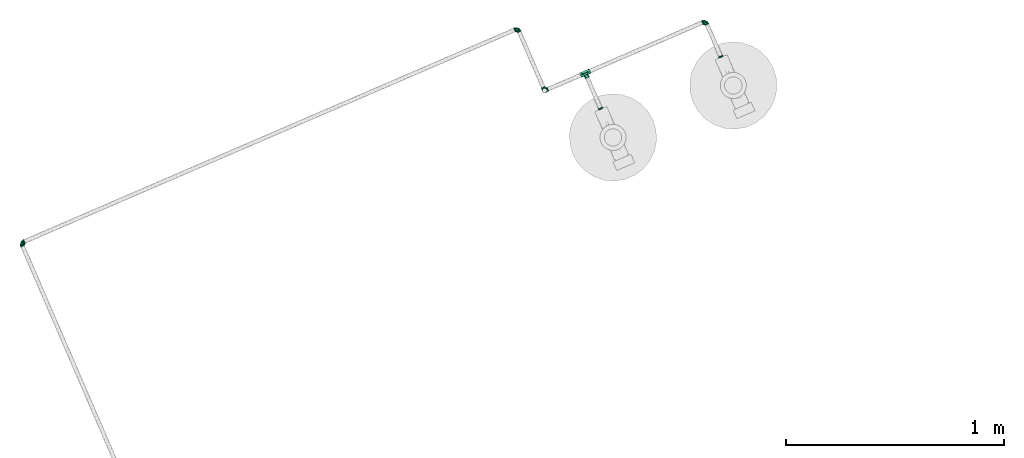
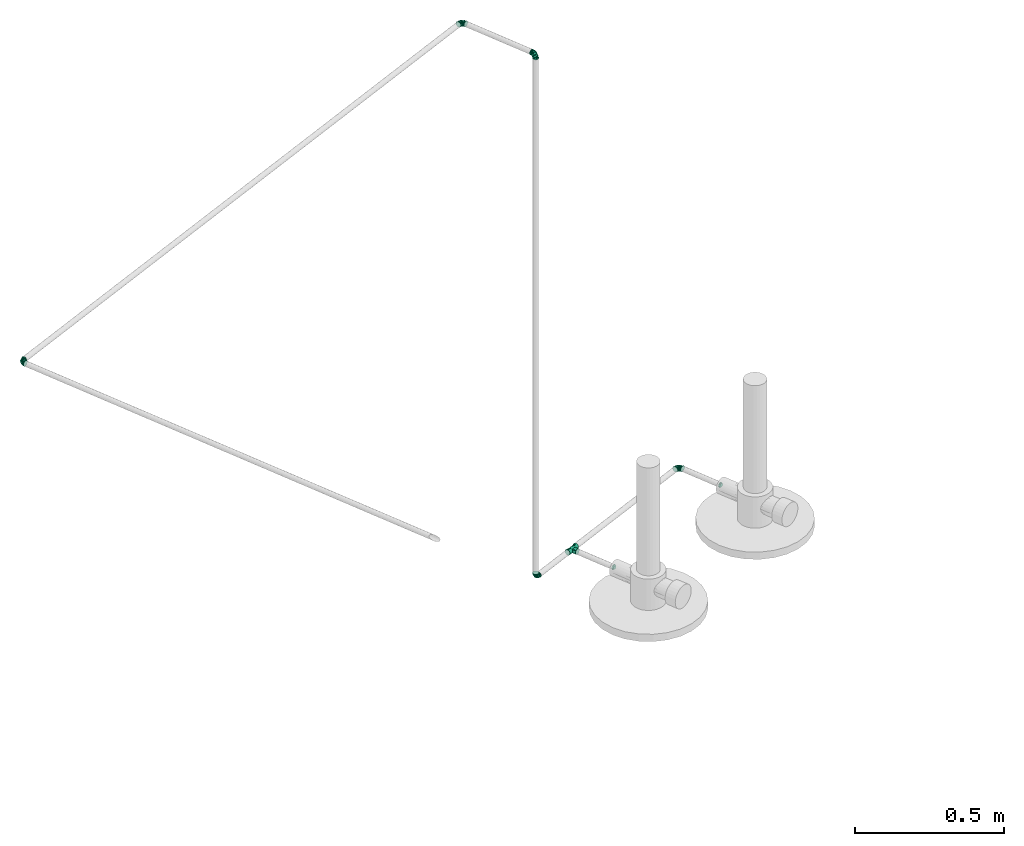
# One storey, part 24 of 26: 8 pipe fittings.
"""IFC4 building model written with IfcOpenShell, lengths in metres."""

from ifc_helpers import new_model, entity, si_unit, converted_unit, derived_unit, direction, frame, origin, place, context, subcontext, project, spatial, polygons, source, transform, mapped, material, type_object, type_shapes, element, save


model = new_model("IFC4")

# Units and contexts
model_context = context("Model", 3, precision=1e-05, world=origin(), true_north=direction((6.12323399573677e-17, 1.0)))
body_context = subcontext(model_context, "Body", "Model", "MODEL_VIEW")
ifc_project = project(units=[si_unit("LENGTHUNIT", "METRE"), si_unit("AREAUNIT", "SQUARE_METRE"), si_unit("VOLUMEUNIT", "CUBIC_METRE"), si_unit("PRESSUREUNIT", "PASCAL"), derived_unit("VOLUMETRICFLOWRATEUNIT", [(si_unit("LENGTHUNIT", "METRE", prefix="DECI"), 3), (si_unit("TIMEUNIT", "SECOND"), -1)]), converted_unit("PLANEANGLEUNIT", "DEGREE", entity("IfcPlaneAngleMeasure", 0.0174532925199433), si_unit("PLANEANGLEUNIT", "RADIAN"), dimensions=[0, 0, 0, 0, 0, 0, 0])], contexts=[model_context])

# Site, building, storey
site_placement = place(None, origin())
site = spatial("IfcSite", under=ifc_project, at=site_placement, Name="Default", CompositionType="ELEMENT")
building_placement = place(site_placement, frame((24.575451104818, -55.896759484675, 317.15), z_axis=(0.0, 0.0, 1.0), x_axis=(-0.396377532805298, 0.918087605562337, 0.0)))
building = spatial("IfcBuilding", under=site, at=building_placement, CompositionType="ELEMENT")
storey_placement = place(building_placement, origin())
storey = spatial("IfcBuildingStorey", under=building, at=storey_placement, Name="Nivel 1", CompositionType="ELEMENT", Elevation=0.0)

# Pipe fittings
ifc_material = material(Name="<Unnamed>")
pipe_fitting_type_1 = type_object("IfcPipeFittingType", Name="M_Transición - Genérica:Norma", PredefinedType="NOTDEFINED", material=ifc_material)
shared_shape_1 = source(origin(), body_context, "Body", "Tessellation", [
    polygons([(0.00555625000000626, -0.0111125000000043, -4.0295957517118e-05), (0.00555625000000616, -0.00555625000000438, -0.0096640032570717), (0.00555625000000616, 0.00555624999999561, -0.00966400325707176), (0.00555625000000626, 0.0111124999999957, -4.02959575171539e-05), (0.00555625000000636, 0.00555624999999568, 0.00958341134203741), (0.00555625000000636, -0.00555625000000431, 0.00958341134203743), (6.26381199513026e-15, -0.0080875, 2.61314334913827e-17), (6.33577987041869e-15, -0.00404374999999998, 0.00700398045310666), (6.33577987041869e-15, 0.00404375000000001, 0.00700398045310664), (6.26381199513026e-15, 0.0080875, -5.22628669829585e-17), (6.19184411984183e-15, 0.00404374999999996, -0.00700398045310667), (6.19184411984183e-15, -0.00404375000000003, -0.00700398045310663), (0.00211556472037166, -0.00923928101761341, -1.5342849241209e-05), (0.00277812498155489, 6.79238755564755e-10, -0.00962014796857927), (0.00344068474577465, 0.00996071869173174, -2.49531044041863e-05), (0.00277812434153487, -0.00748871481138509, -0.00602673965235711), (0.00277812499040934, 0.00530118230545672, -0.00802373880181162), (0.0021260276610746, 0.00924497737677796, -1.54187303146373e-05), (0.00277812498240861, -6.76468328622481e-10, 0.00957985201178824), (0.00343022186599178, -0.00995502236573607, -2.48772237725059e-05), (0.00277812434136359, 0.00748698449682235, 0.00598860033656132), (0.00277812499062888, -0.00530118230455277, 0.00798344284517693)], [[[4, 5, 6, 1, 2, 3]], [[8, 9, 10, 11, 12, 7]], [[16, 1, 20, 13, 7]], [[12, 16, 7]], [[12, 11, 14]], [[2, 16, 14]], [[17, 10, 18, 15]], [[4, 3, 15]], [[17, 3, 14]], [[14, 11, 17]], [[14, 16, 12]], [[10, 17, 11]], [[3, 2, 14]], [[15, 3, 17]], [[1, 16, 2]], [[21, 4, 15, 18, 10]], [[9, 21, 10]], [[9, 8, 19]], [[5, 21, 19]], [[22, 7, 13, 20]], [[1, 6, 20]], [[22, 6, 19]], [[19, 8, 22]], [[19, 21, 9]], [[7, 22, 8]], [[6, 5, 19]], [[20, 6, 22]], [[4, 21, 5]]], closed=True),
])
type_shapes(pipe_fitting_type_1, [shared_shape_1])
pipe_fitting_1_placement = place(storey_placement, frame((34.7887146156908, 39.2338766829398, 0.855540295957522)))
element("IfcPipeFitting", 1, at=pipe_fitting_1_placement, inside=storey, type_object=pipe_fitting_type_1, material=ifc_material, Name="M_Transición - Genérica:Norma", ObjectType="M_Transición - Genérica:Norma", PredefinedType="NOTDEFINED", context=body_context, shape_type="MappedRepresentation", body=[
    mapped(shared_shape_1, transform((0.0, 0.0, 0.0), scale=1.0)),
])
pipe_fitting_type_2 = type_object("IfcPipeFittingType", Name="M_Codo - Genérico:Norma", PredefinedType="NOTDEFINED", material=ifc_material)
shared_shape_2 = source(origin(), body_context, "Body", "Tessellation", [
    polygons([(-0.0174624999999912, -0.0111125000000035, -1.903728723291e-15), (-0.0174624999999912, -0.0107338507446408, 0.00287612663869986), (-0.0174624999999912, -0.0096237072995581, 0.0055562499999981), (-0.0174624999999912, -0.00785772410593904, 0.00785772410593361), (-0.0174624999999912, -0.00555625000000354, 0.00962370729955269), (-0.0174624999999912, -0.00287612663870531, 0.0107338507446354), (-0.0174624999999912, -3.55315776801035e-15, 0.0111124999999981), (-0.0174624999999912, 0.00287612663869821, 0.0107338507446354), (-0.0174624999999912, 0.00555624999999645, 0.00962370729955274), (-0.0174624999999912, 0.00785772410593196, 0.00785772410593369), (-0.0174624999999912, 0.00962370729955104, 0.00555624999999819), (-0.0174624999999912, 0.0107338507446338, 0.00287612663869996), (-0.0174624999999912, 0.0111124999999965, -1.86782324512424e-15), (-0.0174624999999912, 0.0107338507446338, -0.00287612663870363), (-0.0174624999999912, 0.00962370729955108, -0.00555625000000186), (-0.0174624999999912, 0.00785772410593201, -0.00785772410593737), (-0.0174624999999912, 0.00555624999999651, -0.00962370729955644), (-0.0174624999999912, 0.00287612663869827, -0.0107338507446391), (-0.0174624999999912, -3.48759354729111e-15, -0.0111125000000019), (-0.0174624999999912, -0.00287612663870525, -0.0107338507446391), (-0.0174624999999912, -0.00555625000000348, -0.00962370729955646), (-0.0174624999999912, -0.00785772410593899, -0.0078577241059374), (-0.0174624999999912, -0.00962370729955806, -0.00555625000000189), (-0.0174624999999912, -0.0107338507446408, -0.00287612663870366), (0.0111125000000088, 0.0174624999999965, -1.89879378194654e-15), (0.010733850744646, 0.0174624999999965, -0.00287612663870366), (0.00962370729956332, 0.0174624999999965, -0.00555625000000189), (0.00785772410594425, 0.0174624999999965, -0.0078577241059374), (0.00555625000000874, 0.0174624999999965, -0.00962370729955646), (0.0028761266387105, 0.0174624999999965, -0.0107338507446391), (8.74542105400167e-15, 0.0174624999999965, -0.0111125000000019), (-0.00287612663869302, 0.0174624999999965, -0.0107338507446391), (-0.00555624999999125, 0.0174624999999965, -0.00962370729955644), (-0.00785772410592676, 0.0174624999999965, -0.00785772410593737), (-0.00962370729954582, 0.0174624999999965, -0.00555625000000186), (-0.0107338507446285, 0.0174624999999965, -0.00287612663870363), (-0.0111124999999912, 0.0174624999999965, -1.80588217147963e-15), (-0.0107338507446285, 0.0174624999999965, 0.00287612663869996), (-0.00962370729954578, 0.0174624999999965, 0.00555624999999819), (-0.00785772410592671, 0.0174624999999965, 0.00785772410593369), (-0.00555624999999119, 0.0174624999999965, 0.00962370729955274), (-0.00287612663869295, 0.0174624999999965, 0.0107338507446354), (8.81098527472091e-15, 0.0174624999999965, 0.0111124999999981), (0.00287612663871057, 0.0174624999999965, 0.0107338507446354), (0.0055562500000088, 0.0174624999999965, 0.00962370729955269), (0.0078577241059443, 0.0174624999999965, 0.00785772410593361), (0.00962370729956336, 0.0174624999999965, 0.0055562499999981), (0.010733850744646, 0.0174624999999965, 0.00287612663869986), (-0.0129723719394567, 0.0129723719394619, -1.79601228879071e-15), (-0.00317499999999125, -0.00728417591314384, -1.903728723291e-15), (0.00728417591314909, 0.00317499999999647, -1.903728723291e-15), (-0.0100511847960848, -0.00912664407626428, -1.903728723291e-15), (0.00912664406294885, 0.0100511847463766, -1.903728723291e-15), (-0.013756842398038, -0.0101195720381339, -1.903728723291e-15), (0.0101195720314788, 0.0137568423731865, -1.903728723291e-15), (-0.0156096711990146, -0.0106160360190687, -1.903728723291e-15), (0.0106160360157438, 0.0156096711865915, -1.903728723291e-15), (0.00205458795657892, -0.00205458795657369, -1.903728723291e-15), (-0.00555538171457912, 0.00884629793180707, 0.0107630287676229), (-0.00691389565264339, 0.00169494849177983, 0.011009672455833), (0.00190822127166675, 0.00896555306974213, 0.0104820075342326), (-0.00661309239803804, -0.00820540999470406, -1.903728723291e-15), (-0.00947063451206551, -0.00404538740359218, 0.00966608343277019), (0.00557118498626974, 0.0106586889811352, 0.00897323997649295), (-0.0129388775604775, 0.00860307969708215, 0.00818609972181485), (-0.00836753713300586, 0.00728984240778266, 0.0104364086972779), (-0.00044279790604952, 0.00110833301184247, 0.00926146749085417), (0.004669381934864, 0.00056020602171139, -1.903728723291e-15), (0.00194294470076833, 0.00415442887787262, 0.00930962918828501), (-0.000560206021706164, -0.00466938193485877, -1.903728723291e-15), (0.00820540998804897, 0.00661309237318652, -1.903728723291e-15), (-0.0055553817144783, 0.00884629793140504, -0.0107630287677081), (-0.00691389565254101, 0.00169494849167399, -0.0110096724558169), (0.0019082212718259, 0.00896555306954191, -0.0104820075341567), (-0.00947063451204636, -0.00404538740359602, -0.0096660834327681), (0.00557118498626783, 0.0106586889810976, -0.00897323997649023), (-0.012938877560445, 0.00860307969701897, -0.00818609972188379), (-0.00836753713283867, 0.00728984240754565, -0.010436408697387), (-0.000442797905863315, 0.00110833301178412, -0.00926146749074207), (0.00194294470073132, 0.00415442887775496, -0.00930962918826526)], [[[17, 18, 19, 20, 21, 22, 23, 24, 1, 2, 3, 4, 5, 6, 7, 8, 9, 10, 11, 12, 13, 14, 15, 16]], [[31, 32, 33, 34, 35, 36, 37, 38, 39, 40, 41, 42, 43, 44, 45, 46, 47, 48, 25, 26, 27, 28, 29, 30]], [[2, 56, 3]], [[6, 62, 7]], [[67, 69, 59]], [[39, 61, 40]], [[52, 5, 4]], [[3, 54, 4]], [[10, 63, 60]], [[5, 52, 6]], [[62, 50, 63]], [[63, 9, 8]], [[59, 66, 67]], [[6, 52, 62]], [[62, 63, 7]], [[63, 8, 7]], [[66, 65, 60]], [[44, 64, 53]], [[13, 12, 65]], [[64, 51, 71, 53]], [[2, 1, 56]], [[66, 49, 65]], [[63, 10, 9]], [[60, 50, 70]], [[49, 13, 65]], [[60, 70, 67]], [[51, 64, 61]], [[43, 64, 44]], [[53, 45, 44]], [[61, 69, 51]], [[42, 64, 43]], [[50, 60, 63]], [[55, 46, 53]], [[67, 70, 58, 68]], [[53, 46, 45]], [[51, 69, 68]], [[48, 57, 25]], [[11, 60, 65]], [[69, 61, 59]], [[52, 4, 54]], [[38, 37, 59]], [[67, 68, 69]], [[49, 59, 37]], [[55, 47, 46]], [[38, 59, 39]], [[47, 57, 48]], [[61, 41, 40]], [[56, 54, 3]], [[39, 59, 61]], [[55, 57, 47]], [[61, 64, 41]], [[41, 64, 42]], [[60, 11, 10]], [[60, 67, 66]], [[11, 65, 12]], [[49, 66, 59]], [[62, 19, 75]], [[68, 80, 51]], [[79, 78, 72]], [[73, 75, 16]], [[77, 78, 73]], [[35, 34, 74]], [[73, 16, 15]], [[58, 70, 79, 68]], [[14, 13, 77]], [[78, 49, 72]], [[49, 78, 77]], [[77, 73, 15]], [[56, 1, 24]], [[79, 70, 73]], [[22, 52, 54]], [[20, 19, 62]], [[72, 74, 80]], [[52, 22, 21]], [[21, 20, 52]], [[16, 75, 17]], [[68, 79, 80]], [[52, 20, 62]], [[72, 49, 37]], [[50, 73, 70]], [[37, 36, 72]], [[73, 78, 79]], [[53, 28, 55]], [[35, 72, 36]], [[51, 80, 74]], [[54, 23, 22]], [[76, 33, 32]], [[57, 55, 27]], [[54, 56, 23]], [[33, 74, 34]], [[23, 56, 24]], [[31, 76, 32]], [[53, 76, 30]], [[15, 14, 77]], [[29, 28, 53]], [[53, 30, 29]], [[30, 76, 31]], [[76, 74, 33]], [[27, 26, 57]], [[75, 19, 18]], [[51, 74, 76]], [[35, 74, 72]], [[18, 17, 75]], [[27, 55, 28]], [[50, 75, 73]], [[26, 25, 57]], [[76, 53, 71, 51]], [[75, 50, 62]], [[13, 49, 77]], [[80, 79, 72]]], closed=True),
])
type_shapes(pipe_fitting_type_2, [shared_shape_2])
pipe_fitting_2_placement = place(storey_placement, frame((34.9687146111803, 39.2338766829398, 0.8555)))
element("IfcPipeFitting", 2, at=pipe_fitting_2_placement, inside=storey, type_object=pipe_fitting_type_2, material=ifc_material, Name="M_Codo - Genérico:Norma", ObjectType="M_Codo - Genérico:Norma", PredefinedType="NOTDEFINED", context=body_context, shape_type="MappedRepresentation", body=[
    mapped(shared_shape_2, transform((0.0, 0.0, 0.0), scale=1.0)),
])
for number, where, z_axis, x_axis in (
    (3, (35.2787146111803, 42.5138766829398, 3.0), (0.0, 0.0, 1.0), (0.0, 1.0, 0.0)),
    (4, (34.9687146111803, 40.0364141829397, 0.855500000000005), (1.0, 0.0, 0.0), (0.0, 1.0, 0.0)),
):
    element("IfcPipeFitting", number, at=place(storey_placement, frame(where, z_axis=z_axis, x_axis=x_axis)), inside=storey, type_object=pipe_fitting_type_2, material=ifc_material, Name="M_Codo - Genérico:Norma", ObjectType="M_Codo - Genérico:Norma", PredefinedType="NOTDEFINED", context=body_context, shape_type="MappedRepresentation", body=[
        mapped(shared_shape_2, transform((0.0, 0.0, 0.0), scale=1.0)),
    ])
pipe_fitting_3_placement = place(storey_placement, frame((35.2787146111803, 40.0364141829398, 3.0)))
element("IfcPipeFitting", 5, at=pipe_fitting_3_placement, inside=storey, type_object=pipe_fitting_type_2, material=ifc_material, Name="M_Codo - Genérico:Norma", ObjectType="M_Codo - Genérico:Norma", PredefinedType="NOTDEFINED", context=body_context, shape_type="MappedRepresentation", body=[
    mapped(shared_shape_2, transform((0.0, 0.0, 0.0), scale=1.0)),
])
pipe_fitting_4_placement = place(storey_placement, frame((34.9687146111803, 40.0364141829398, 3.0), z_axis=(0.0, 1.0, 0.0), x_axis=(0.0, 0.0, 1.0)))
element("IfcPipeFitting", 6, at=pipe_fitting_4_placement, inside=storey, type_object=pipe_fitting_type_2, material=ifc_material, Name="M_Codo - Genérico:Norma", ObjectType="M_Codo - Genérico:Norma", PredefinedType="NOTDEFINED", context=body_context, shape_type="MappedRepresentation", body=[
    mapped(shared_shape_2, transform((0.0, 0.0, 0.0), scale=1.0)),
])
pipe_fitting_type_3 = type_object("IfcPipeFittingType", Name="M_Te - Genérica:Norma", PredefinedType="NOTDEFINED", material=ifc_material)
shared_shape_3 = source(origin(), body_context, "Body", "Tessellation", [
    polygons([(-0.0238124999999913, -0.0111125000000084, -1.903728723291e-15), (-0.0238124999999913, -0.0107338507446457, 0.00287612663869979), (-0.0238124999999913, -0.00962370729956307, 0.00555624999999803), (-0.0238124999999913, -0.00785772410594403, 0.00785772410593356), (-0.0238124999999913, -0.00555625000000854, 0.00962370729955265), (-0.0238124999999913, -0.00287612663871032, 0.0107338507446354), (-0.0238124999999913, -8.56023581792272e-15, 0.0111124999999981), (-0.0238124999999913, 0.0028761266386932, 0.0107338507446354), (-0.0238124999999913, 0.00555624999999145, 0.00962370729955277), (-0.0238124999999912, 0.00785772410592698, 0.00785772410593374), (-0.0238124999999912, 0.00962370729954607, 0.00555624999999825), (-0.0238124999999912, 0.0107338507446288, 0.00287612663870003), (-0.0238124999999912, 0.0111124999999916, -1.79601228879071e-15), (-0.0238124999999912, 0.0107338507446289, -0.00287612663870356), (-0.0238124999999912, 0.00962370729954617, -0.0055562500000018), (-0.0238124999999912, 0.00785772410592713, -0.00785772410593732), (-0.0238124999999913, 0.00555624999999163, -0.0096237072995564), (-0.0238124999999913, 0.00287612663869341, -0.0107338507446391), (-0.0238124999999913, -8.35739460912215e-15, -0.0111125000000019), (-0.0238124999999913, -0.00287612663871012, -0.0107338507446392), (-0.0238124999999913, -0.00555625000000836, -0.00962370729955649), (-0.0238124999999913, -0.00785772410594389, -0.00785772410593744), (-0.0238124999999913, -0.00962370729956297, -0.00555625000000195), (-0.0238124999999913, -0.0107338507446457, -0.00287612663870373), (0.0238125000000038, -0.0111125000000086, -1.97060473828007e-15), (0.0238125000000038, -0.0107338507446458, -0.00287612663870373), (0.0238125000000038, -0.00962370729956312, -0.00555625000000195), (0.0238125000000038, -0.00785772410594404, -0.00785772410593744), (0.0238125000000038, -0.00555625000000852, -0.00962370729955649), (0.0238125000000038, -0.00287612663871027, -0.0107338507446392), (0.0238125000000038, -8.51041926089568e-15, -0.0111125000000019), (0.0238125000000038, 0.00287612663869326, -0.0107338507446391), (0.0238125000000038, 0.00555624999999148, -0.0096237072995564), (0.0238125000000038, 0.00785772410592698, -0.00785772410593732), (0.0238125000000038, 0.00962370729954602, -0.0055562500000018), (0.0238125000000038, 0.0107338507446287, -0.00287612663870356), (0.0238125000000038, 0.0111124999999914, -1.7367929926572e-15), (0.0238125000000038, 0.0107338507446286, 0.00287612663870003), (0.0238125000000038, 0.00962370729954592, 0.00555624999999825), (0.0238125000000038, 0.00785772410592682, 0.00785772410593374), (0.0238125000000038, 0.0055562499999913, 0.00962370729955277), (0.0238125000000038, 0.00287612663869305, 0.0107338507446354), (0.0238125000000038, -8.71326046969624e-15, 0.0111124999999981), (0.0238125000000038, -0.00287612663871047, 0.0107338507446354), (0.0238125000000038, -0.00555625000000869, 0.00962370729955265), (0.0238125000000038, -0.00785772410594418, 0.00785772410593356), (0.0238125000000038, -0.00962370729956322, 0.00555624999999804), (0.0238125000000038, -0.0107338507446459, 0.00287612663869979), (-0.0111124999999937, -0.0111125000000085, -1.903728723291e-15), (-0.0107094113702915, -0.0107094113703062, 0.00296583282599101), (-0.00961793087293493, -0.00961793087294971, 0.00556624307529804), (-0.00806374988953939, -0.00806374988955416, 0.00764614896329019), (-0.00622834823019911, -0.00622834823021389, 0.00920300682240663), (-0.00422731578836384, -0.00422731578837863, 0.0102770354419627), (-0.0021338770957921, -0.00213387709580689, 0.0109056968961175), (6.2730154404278e-15, -8.61700837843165e-15, 0.0111124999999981), (0.00213387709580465, -0.00213387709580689, 0.0109056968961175), (0.0042273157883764, -0.00422731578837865, 0.0102770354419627), (0.00622834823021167, -0.00622834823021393, 0.00920300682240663), (0.00806374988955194, -0.0080637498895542, 0.0076461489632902), (0.00961793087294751, -0.00961793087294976, 0.00556624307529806), (0.010709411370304, -0.0107094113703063, 0.00296583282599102), (0.0111125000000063, -0.0111125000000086, -1.89879378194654e-15), (0.010709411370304, -0.0107094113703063, -0.00296583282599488), (0.00961793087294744, -0.00961793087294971, -0.00556624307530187), (0.00806374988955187, -0.00806374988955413, -0.00764614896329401), (0.00622834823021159, -0.00622834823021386, -0.00920300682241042), (0.00422731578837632, -0.00422731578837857, -0.0102770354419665), (0.00213387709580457, -0.00213387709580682, -0.0109056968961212), (6.2730154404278e-15, -8.46351658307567e-15, -0.0111125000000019), (-0.00213387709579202, -0.0021338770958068, -0.0109056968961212), (-0.00422731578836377, -0.00422731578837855, -0.0102770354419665), (-0.00622834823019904, -0.00622834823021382, -0.00920300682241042), (-0.00806374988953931, -0.00806374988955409, -0.007646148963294), (-0.00961793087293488, -0.00961793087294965, -0.00556624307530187), (-0.0107094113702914, -0.0107094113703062, -0.00296583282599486), (-0.0111124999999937, -0.0238125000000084, -1.89879378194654e-15), (-0.010733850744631, -0.0238125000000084, -0.00287612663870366), (-0.00962370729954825, -0.0238125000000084, -0.00555625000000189), (-0.00785772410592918, -0.0238125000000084, -0.0078577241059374), (-0.00555624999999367, -0.0238125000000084, -0.00962370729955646), (-0.00287612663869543, -0.0238125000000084, -0.0107338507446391), (6.32632078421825e-15, -0.0238125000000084, -0.0111125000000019), (0.00287612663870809, -0.0238125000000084, -0.0107338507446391), (0.00555625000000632, -0.0238125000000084, -0.00962370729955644), (0.00785772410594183, -0.0238125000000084, -0.00785772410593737), (0.00962370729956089, -0.0238125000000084, -0.00555625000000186), (0.0107338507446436, -0.0238125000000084, -0.00287612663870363), (0.0111125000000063, -0.0238125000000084, -1.7367929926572e-15), (0.0107338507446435, -0.0238125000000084, 0.00287612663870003), (0.00962370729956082, -0.0238125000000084, 0.00555624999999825), (0.00785772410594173, -0.0238125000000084, 0.00785772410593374), (0.0055562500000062, -0.0238125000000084, 0.00962370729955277), (0.00287612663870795, -0.0238125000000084, 0.0107338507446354), (6.19035559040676e-15, -0.0238125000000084, 0.0111124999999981), (-0.00287612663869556, -0.0238125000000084, 0.0107338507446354), (-0.00555624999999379, -0.0238125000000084, 0.00962370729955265), (-0.00785772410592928, -0.0238125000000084, 0.00785772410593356), (-0.00962370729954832, -0.0238125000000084, 0.00555624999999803), (-0.010733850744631, -0.0238125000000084, 0.00287612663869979)], [[[19, 20, 21, 22, 23, 24, 1, 2, 3, 4, 5, 6, 7, 8, 9, 10, 11, 12, 13, 14, 15, 16, 17, 18]], [[32, 33, 34, 35, 36, 37, 38, 39, 40, 41, 42, 43, 44, 45, 46, 47, 48, 25, 26, 27, 28, 29, 30, 31]], [[25, 48, 63]], [[49, 2, 1]], [[48, 62, 63]], [[62, 48, 47]], [[62, 47, 61]], [[46, 45, 60]], [[60, 61, 46]], [[59, 60, 45]], [[46, 61, 47]], [[49, 50, 2]], [[2, 50, 3]], [[50, 51, 3]], [[52, 53, 5]], [[52, 4, 51]], [[4, 52, 5]], [[51, 4, 3]], [[5, 53, 6]], [[44, 59, 45]], [[44, 43, 58]], [[43, 57, 58]], [[57, 43, 42]], [[56, 57, 42]], [[44, 58, 59]], [[41, 40, 56]], [[56, 39, 38]], [[39, 56, 40]], [[42, 41, 56]], [[56, 38, 37]], [[7, 55, 8]], [[54, 7, 6]], [[7, 54, 55]], [[54, 6, 53]], [[55, 56, 8]], [[56, 12, 11]], [[11, 10, 56]], [[9, 8, 56]], [[56, 10, 9]], [[12, 56, 13]], [[56, 37, 13]], [[36, 70, 37]], [[34, 70, 35]], [[70, 36, 35]], [[70, 34, 33]], [[32, 31, 69]], [[31, 68, 69]], [[68, 31, 30]], [[68, 30, 67]], [[33, 32, 70]], [[69, 70, 32]], [[70, 17, 16]], [[14, 70, 15]], [[16, 15, 70]], [[70, 14, 13]], [[70, 71, 18]], [[71, 19, 18]], [[20, 19, 72]], [[72, 19, 71]], [[70, 18, 17]], [[13, 37, 70]], [[29, 28, 66]], [[66, 67, 29]], [[65, 66, 28]], [[28, 27, 65]], [[27, 26, 64]], [[26, 63, 64]], [[63, 26, 25]], [[24, 49, 1]], [[27, 64, 65]], [[73, 21, 20]], [[21, 74, 22]], [[74, 21, 73]], [[22, 74, 75]], [[73, 20, 72]], [[76, 49, 24]], [[75, 76, 23]], [[76, 24, 23]], [[75, 23, 22]], [[67, 30, 29]], [[83, 84, 85, 86, 87, 88, 89, 90, 91, 92, 93, 94, 95, 96, 97, 98, 99, 100, 77, 78, 79, 80, 81, 82]], [[100, 49, 77]], [[99, 50, 100]], [[51, 98, 97]], [[97, 96, 51]], [[99, 98, 50]], [[95, 52, 96]], [[50, 49, 100]], [[51, 50, 98]], [[60, 59, 53, 52]], [[58, 57, 55, 54]], [[54, 53, 59, 58]], [[51, 96, 52]], [[95, 60, 52]], [[93, 61, 94]], [[92, 61, 93]], [[62, 91, 90]], [[89, 63, 90]], [[92, 91, 62]], [[62, 90, 63]], [[56, 55, 57]], [[62, 61, 92]], [[61, 60, 94]], [[60, 95, 94]], [[88, 63, 89]], [[87, 64, 88]], [[65, 86, 85]], [[85, 84, 65]], [[87, 86, 64]], [[83, 66, 84]], [[64, 63, 88]], [[65, 64, 86]], [[74, 73, 67, 66]], [[72, 71, 69, 68]], [[68, 67, 73, 72]], [[65, 84, 66]], [[83, 74, 66]], [[81, 75, 82]], [[80, 75, 81]], [[76, 79, 78]], [[77, 49, 78]], [[80, 79, 76]], [[76, 78, 49]], [[70, 69, 71]], [[76, 75, 80]], [[75, 74, 82]], [[74, 83, 82]]], closed=True),
])
type_shapes(pipe_fitting_type_3, [shared_shape_3])
pipe_fitting_5_placement = place(storey_placement, frame((34.9687146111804, 39.8338766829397, 0.855500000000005), z_axis=(0.0, 0.0, 1.0), x_axis=(0.0, -1.0, 0.0)))
element("IfcPipeFitting", 7, at=pipe_fitting_5_placement, inside=storey, type_object=pipe_fitting_type_3, material=ifc_material, Name="M_Te - Genérica:Norma", ObjectType="M_Te - Genérica:Norma", PredefinedType="NOTDEFINED", context=body_context, shape_type="MappedRepresentation", body=[
    mapped(shared_shape_3, transform((0.0, 0.0, 0.0), scale=1.0)),
])
pipe_fitting_type_4 = type_object("IfcPipeFittingType", Name="M_Transición - Genérica:Norma", PredefinedType="NOTDEFINED", material=ifc_material)
shared_shape_4 = source(origin(), body_context, "Body", "Tessellation", [
    polygons([(0.00555625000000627, -0.00808750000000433, 4.02959575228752e-05), (0.00555625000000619, -0.00404375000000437, -0.00696368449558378), (0.00555625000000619, 0.00404374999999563, -0.00696368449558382), (0.00555625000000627, 0.00808749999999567, 4.02959575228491e-05), (0.00555625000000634, 0.00404374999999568, 0.00704427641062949), (0.00555625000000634, -0.00404375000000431, 0.00704427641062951), (6.26381199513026e-15, -0.0111125, 3.59054781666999e-17), (6.36269830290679e-15, -0.00555624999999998, 0.00962370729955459), (6.36269830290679e-15, 0.00555625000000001, 0.00962370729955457), (6.26381199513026e-15, 0.0111125, -7.18109563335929e-17), (6.16492568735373e-15, 0.00555624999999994, -0.00962370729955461), (6.16492568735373e-15, -0.00555625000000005, -0.00962370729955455), (0.0021155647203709, -0.00996071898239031, 1.5342849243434e-05), (0.00277812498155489, 6.79238756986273e-10, -0.00957985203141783), (0.00344068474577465, 0.0092392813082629, 2.4953104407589e-05), (0.00277812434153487, -0.00748871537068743, -0.00598644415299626), (0.00277812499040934, 0.00530118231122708, -0.00798344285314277), (0.00212602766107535, 0.00995502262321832, 1.5418730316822e-05), (0.00277812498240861, -6.76468332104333e-10, 0.00962014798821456), (0.00343022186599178, -0.00924497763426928, 2.4877223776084e-05), (0.00277812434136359, 0.00748698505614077, 0.00602889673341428), (0.00277812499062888, -0.00530118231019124, 0.00802373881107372)], [[[4, 5, 6, 1, 2, 3]], [[8, 9, 10, 11, 12, 7]], [[16, 1, 20, 13, 7]], [[12, 16, 7]], [[12, 11, 14]], [[2, 16, 14]], [[17, 10, 18, 15]], [[4, 3, 15]], [[17, 3, 14]], [[14, 11, 17]], [[14, 16, 12]], [[10, 17, 11]], [[3, 2, 14]], [[15, 3, 17]], [[1, 16, 2]], [[21, 4, 15, 18, 10]], [[9, 21, 10]], [[9, 8, 19]], [[5, 21, 19]], [[22, 7, 13, 20]], [[1, 6, 20]], [[22, 6, 19]], [[19, 8, 22]], [[19, 21, 9]], [[7, 22, 8]], [[6, 5, 19]], [[20, 6, 22]], [[4, 21, 5]]], closed=True),
])
type_shapes(pipe_fitting_type_4, [shared_shape_4])
pipe_fitting_6_placement = place(storey_placement, frame((34.7942708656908, 39.8338766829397, 0.855500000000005), z_axis=(0.0, 0.0, 1.0), x_axis=(-1.0, 0.0, 0.0)))
element("IfcPipeFitting", 8, at=pipe_fitting_6_placement, inside=storey, type_object=pipe_fitting_type_4, material=ifc_material, Name="M_Transición - Genérica:Norma", ObjectType="M_Transición - Genérica:Norma", PredefinedType="NOTDEFINED", context=body_context, shape_type="MappedRepresentation", body=[
    mapped(shared_shape_4, transform((0.0, 0.0, 0.0), scale=1.0)),
])

save(model, "model.ifc")
